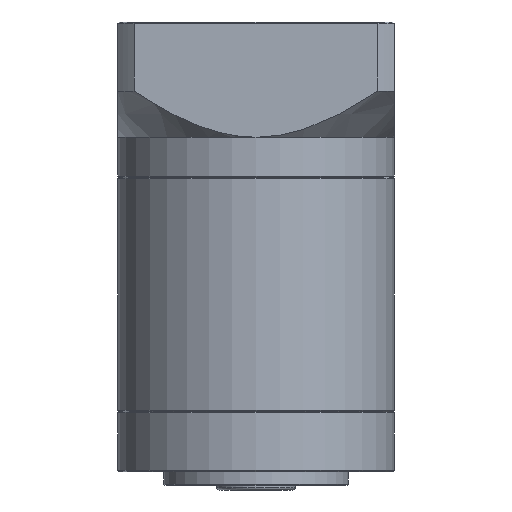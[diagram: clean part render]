
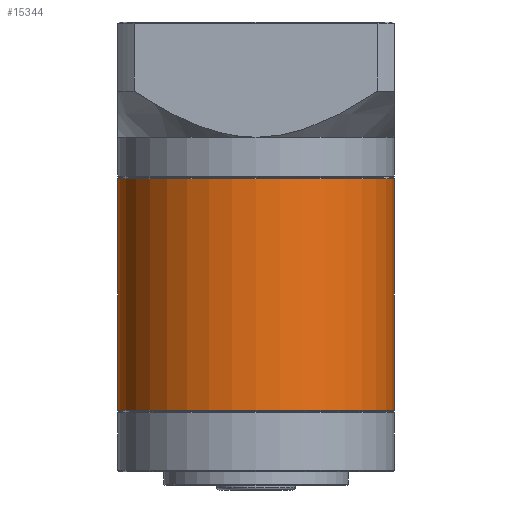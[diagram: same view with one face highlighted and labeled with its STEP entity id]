
A CAD part, front view. The second image highlights one B-rep face of the part: STEP entity #15344.
In plain terms, the highlighted cylindrical face has radius 30 mm (diameter 60 mm), a partial arc.
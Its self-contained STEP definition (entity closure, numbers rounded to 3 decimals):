
#572 = VERTEX_POINT ( 'NONE', #21618 ) ;
#5578 = DIRECTION ( 'NONE',  ( 0., 0., 1. ) ) ;
#8398 = FACE_OUTER_BOUND ( 'NONE', #64884, .T. ) ;
#13335 = DIRECTION ( 'NONE',  ( 0., 0., -1. ) ) ;
#14536 = AXIS2_PLACEMENT_3D ( 'NONE', #98877, #13335, #44819 ) ;
#15344 = ADVANCED_FACE ( 'NONE', ( #8398 ), #19462, .T. ) ;
#16498 = VERTEX_POINT ( 'NONE', #23337 ) ;
#19462 = CYLINDRICAL_SURFACE ( 'NONE', #14536, 30. ) ;
#21618 = CARTESIAN_POINT ( 'NONE',  ( -44.716, 10.431, -48.537 ) ) ;
#23027 = CIRCLE ( 'NONE', #50353, 30. ) ;
#23337 = CARTESIAN_POINT ( 'NONE',  ( -104.716, 10.431, -48.537 ) ) ;
#29915 = CARTESIAN_POINT ( 'NONE',  ( -104.716, 10.431, 2.013 ) ) ;
#30204 = ORIENTED_EDGE ( 'NONE', *, *, #86068, .T. ) ;
#31843 = VECTOR ( 'NONE', #45410, 1000. ) ;
#32103 = VERTEX_POINT ( 'NONE', #39401 ) ;
#37895 = CARTESIAN_POINT ( 'NONE',  ( -44.716, 10.431, 2.013 ) ) ;
#39374 = DIRECTION ( 'NONE',  ( 0., 0., -1. ) ) ;
#39401 = CARTESIAN_POINT ( 'NONE',  ( -104.716, 10.431, 1.763 ) ) ;
#40384 = VERTEX_POINT ( 'NONE', #78172 ) ;
#43715 = ORIENTED_EDGE ( 'NONE', *, *, #99928, .F. ) ;
#44819 = DIRECTION ( 'NONE',  ( -1., 0., 0. ) ) ;
#45410 = DIRECTION ( 'NONE',  ( 0., 0., -1. ) ) ;
#50353 = AXIS2_PLACEMENT_3D ( 'NONE', #52555, #5578, #60396 ) ;
#52555 = CARTESIAN_POINT ( 'NONE',  ( -74.716, 10.431, -48.537 ) ) ;
#58130 = CIRCLE ( 'NONE', #69681, 30. ) ;
#60396 = DIRECTION ( 'NONE',  ( 1., 0., 0. ) ) ;
#63597 = EDGE_CURVE ( 'NONE', #32103, #16498, #69138, .T. ) ;
#64884 = EDGE_LOOP ( 'NONE', ( #43715, #68063, #84773, #30204 ) ) ;
#68063 = ORIENTED_EDGE ( 'NONE', *, *, #84182, .T. ) ;
#69138 = LINE ( 'NONE', #29915, #89841 ) ;
#69681 = AXIS2_PLACEMENT_3D ( 'NONE', #86053, #39374, #93818 ) ;
#76622 = DIRECTION ( 'NONE',  ( 0., 0., -1. ) ) ;
#78172 = CARTESIAN_POINT ( 'NONE',  ( -44.716, 10.431, 1.763 ) ) ;
#84182 = EDGE_CURVE ( 'NONE', #40384, #32103, #58130, .T. ) ;
#84773 = ORIENTED_EDGE ( 'NONE', *, *, #63597, .T. ) ;
#86053 = CARTESIAN_POINT ( 'NONE',  ( -74.716, 10.431, 1.763 ) ) ;
#86068 = EDGE_CURVE ( 'NONE', #16498, #572, #23027, .T. ) ;
#89841 = VECTOR ( 'NONE', #76622, 1000. ) ;
#91572 = LINE ( 'NONE', #37895, #31843 ) ;
#93818 = DIRECTION ( 'NONE',  ( 1., 0., 0. ) ) ;
#98877 = CARTESIAN_POINT ( 'NONE',  ( -74.716, 10.431, 2.013 ) ) ;
#99928 = EDGE_CURVE ( 'NONE', #40384, #572, #91572, .T. ) ;
